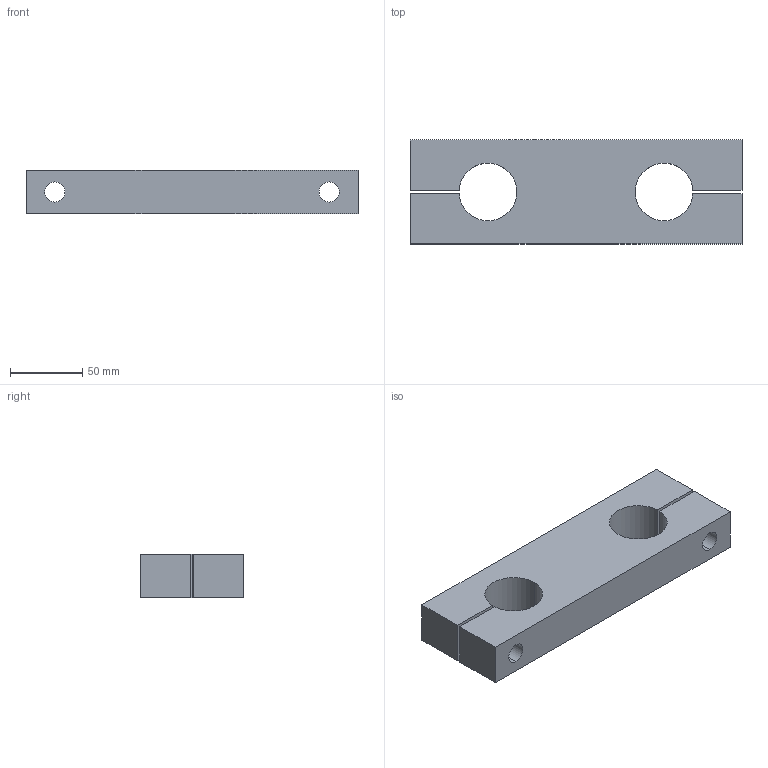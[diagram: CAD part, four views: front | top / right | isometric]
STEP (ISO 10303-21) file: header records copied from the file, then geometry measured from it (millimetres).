
FILE_DESCRIPTION (( 'STEP AP214' ), '1' );
FILE_NAME ('KTB-40.step', '2020-03-04T13:38:48', ( '' ), ( '' ), 'SwSTEP 2.0', 'SolidWorks 2019', '' );
FILE_SCHEMA (( 'AUTOMOTIVE_DESIGN' ));
Length unit declared in the file: millimetre
Products named in the file (1): KTB-40
Bounding box: 230 x 72 x 30 mm (x, y, z)
Volume: 376394.3 mm3; surface area: 63868.6 mm2
Topology: 1 solids, 1 shells, 41 faces, 101 edges, 65 vertices
Faces by surface type: cylinder 21, plane 16, cone 4
Entity records: 1307 total; most frequent: DIRECTION 227, CARTESIAN_POINT 206, ORIENTED_EDGE 198, EDGE_CURVE 99, AXIS2_PLACEMENT_3D 86, VERTEX_POINT 65, VECTOR 55, LINE 55
